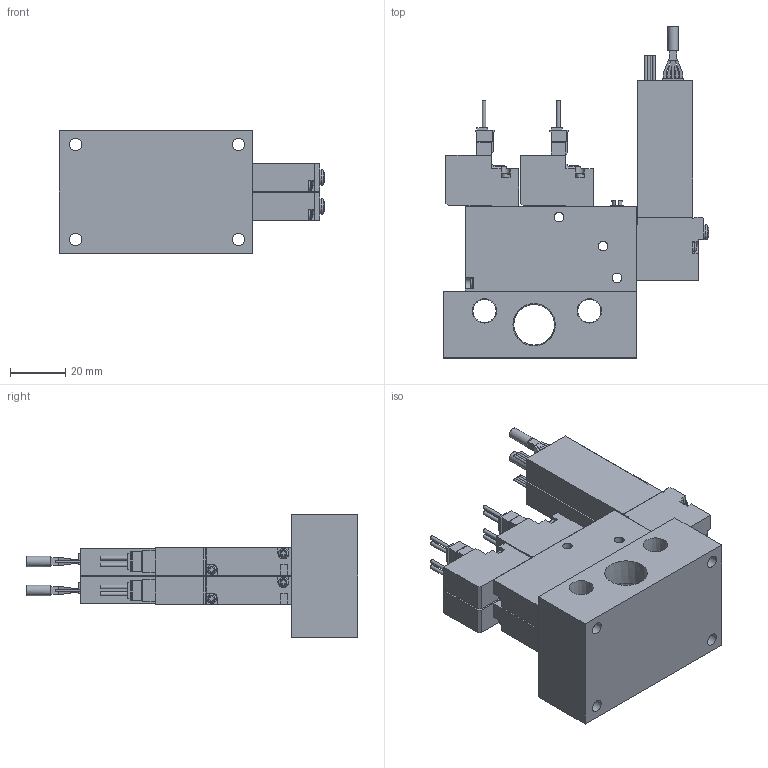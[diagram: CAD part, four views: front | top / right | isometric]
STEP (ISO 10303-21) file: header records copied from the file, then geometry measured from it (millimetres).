
FILE_DESCRIPTION(('STEP AP203'),'1');
FILE_NAME('BMPV42M10.10P.10PS5A(B)202.stp','2025-04-30T01:25:26',(' '),(' '),'Spatial InterOp 3D',' ',' ');
FILE_SCHEMA(('CONFIG_CONTROL_DESIGN'));
Length unit declared in the file: millimetre
Products named in the file (5): BMPV42M10.10P.10PS5A(B)202; VACUUM VALVE FUNCTION MPV42-A; VACUUM SENSOR MPV42-10; UNIT-MPV42; MPV42-M20R-1
Assembly tree (9 placements, depth 2):
  BMPV42M10.10P.10PS5A(B)202
    VACUUM VALVE FUNCTION MPV42-A  x4
    VACUUM SENSOR MPV42-10  x2
    UNIT-MPV42  x2
    MPV42-M20R-1
Bounding box: 96.35 x 120.3 x 44.5 mm (x, y, z)
Volume: 147069.7 mm3; surface area: 49440.3 mm2
Topology: 9 solids, 9 shells, 795 faces, 2141 edges, 1420 vertices
Faces by surface type: plane 614, cylinder 147, cone 14, sphere 10, torus 10
Full cylindrical faces by diameter (mm): 0.9 x8, 1.4 x8, 1.8 x2, 2.2 x4, 3 x8, 3.5 x22, 3.8 x2, 4.134 x4, 4.5 x4, 5 x2, 5.5 x2, 8.441 x2, 14.744 x1
Entity records: 9663 total; most frequent: CARTESIAN_POINT 1880, DIRECTION 1531, ORIENTED_EDGE 1490, EDGE_CURVE 745, LINE 551, VECTOR 551, VERTEX_POINT 521, AXIS2_PLACEMENT_3D 490
